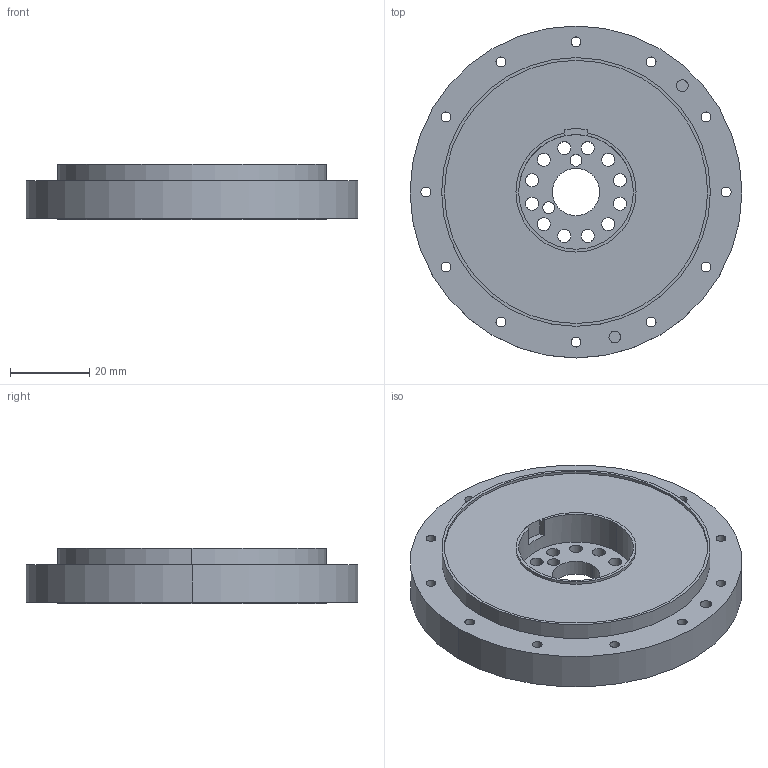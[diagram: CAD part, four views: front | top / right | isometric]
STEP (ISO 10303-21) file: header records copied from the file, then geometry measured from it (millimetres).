
FILE_DESCRIPTION (( 'STEP AP214' ), '1' );
FILE_NAME ('ATSB50-D84.STEP', '2023-11-07T10:24:17', ( '' ), ( '' ), 'SwSTEP 2.0', 'SolidWorks 2021', '' );
FILE_SCHEMA (( 'AUTOMOTIVE_DESIGN' ));
Length unit declared in the file: millimetre
Products named in the file (1): ATSB50-D84
Bounding box: 84 x 84 x 14 mm (x, y, z)
Volume: 56742.2 mm3; surface area: 17026.6 mm2
Topology: 1 solids, 1 shells, 93 faces, 246 edges, 164 vertices
Faces by surface type: cylinder 78, plane 15
Entity records: 3384 total; most frequent: DIRECTION 592, CARTESIAN_POINT 504, ORIENTED_EDGE 492, AXIS2_PLACEMENT_3D 252, EDGE_CURVE 246, VERTEX_POINT 164, CIRCLE 158, EDGE_LOOP 156
